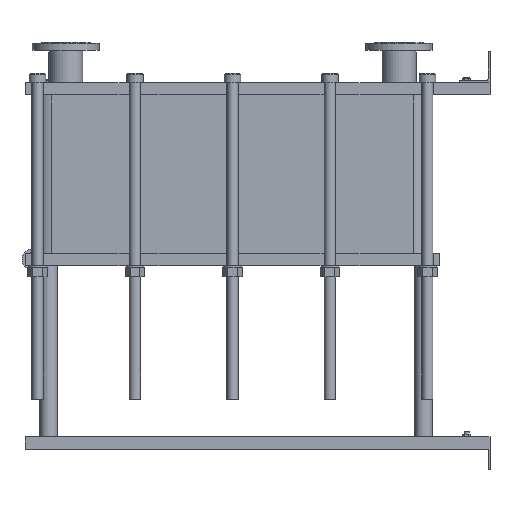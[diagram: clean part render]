
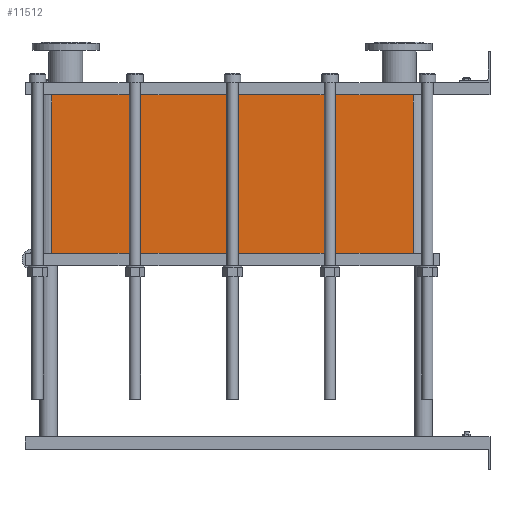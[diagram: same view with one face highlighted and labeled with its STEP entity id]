
A CAD part, left-side view. The second image highlights one B-rep face of the part: STEP entity #11512.
In plain terms, the highlighted planar face has unit normal (-1, 0, 0).
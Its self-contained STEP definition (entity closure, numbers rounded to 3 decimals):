
#1129=LINE('',#23232,#2102);
#1130=LINE('',#23236,#2103);
#1131=LINE('',#23238,#2104);
#1132=LINE('',#23239,#2105);
#2102=VECTOR('',#15887,10.);
#2103=VECTOR('',#15892,10.);
#2104=VECTOR('',#15893,10.);
#2105=VECTOR('',#15894,10.);
#3267=FACE_OUTER_BOUND('',#4093,.T.);
#4093=EDGE_LOOP('',(#10103,#10104,#10105,#10106));
#5642=VERTEX_POINT('',#23229);
#5643=VERTEX_POINT('',#23231);
#5644=VERTEX_POINT('',#23235);
#5645=VERTEX_POINT('',#23237);
#7159=EDGE_CURVE('',#5643,#5642,#1129,.T.);
#7161=EDGE_CURVE('',#5642,#5644,#1130,.T.);
#7162=EDGE_CURVE('',#5645,#5644,#1131,.T.);
#7163=EDGE_CURVE('',#5645,#5643,#1132,.T.);
#10103=ORIENTED_EDGE('',*,*,#7161,.T.);
#10104=ORIENTED_EDGE('',*,*,#7162,.F.);
#10105=ORIENTED_EDGE('',*,*,#7163,.T.);
#10106=ORIENTED_EDGE('',*,*,#7159,.T.);
#10857=PLANE('',#12751);
#11512=ADVANCED_FACE('',(#3267),#10857,.T.);
#12751=AXIS2_PLACEMENT_3D('',#23234,#15890,#15891);
#15887=DIRECTION('',(0.,0.,-1.));
#15890=DIRECTION('center_axis',(-1.,0.,0.));
#15891=DIRECTION('ref_axis',(0.,1.,0.));
#15892=DIRECTION('',(0.,-1.,0.));
#15893=DIRECTION('',(0.,0.,-1.));
#15894=DIRECTION('',(0.,1.,0.));
#23229=CARTESIAN_POINT('',(-200.,1414.,-510.6));
#23231=CARTESIAN_POINT('',(-200.,1414.,0.));
#23232=CARTESIAN_POINT('',(-200.,1414.,0.));
#23234=CARTESIAN_POINT('Origin',(-200.,248.,0.));
#23235=CARTESIAN_POINT('',(-200.,248.,-510.6));
#23236=CARTESIAN_POINT('',(-200.,539.5,-510.6));
#23237=CARTESIAN_POINT('',(-200.,248.,0.));
#23238=CARTESIAN_POINT('',(-200.,248.,0.));
#23239=CARTESIAN_POINT('',(-200.,248.,0.));
